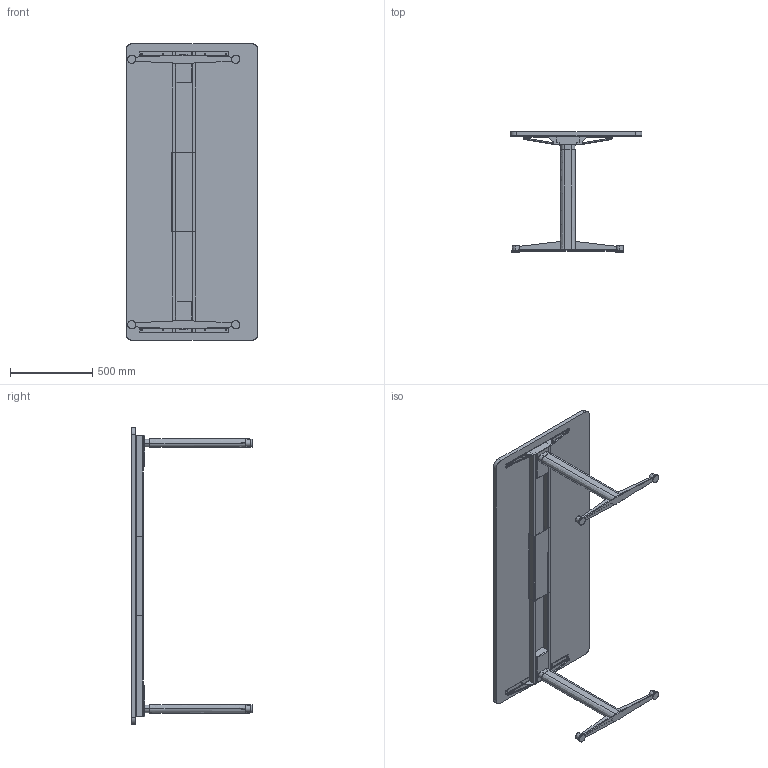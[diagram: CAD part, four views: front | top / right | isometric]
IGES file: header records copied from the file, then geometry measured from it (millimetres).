
Start section: SolidWorks IGES file using analytic representation for surfaces
Global section: file name: C:\Users\simone.cerana\OneDrive - Gruppo Tecno\Desktop\CHINA\DISEGNI DI SERIE\ASSIEMI LISTINO\AXIS LISTINO\AX1808ST.IGS; native system: SolidWorks 2024; preprocessor: SolidWorks 2024; author: simone.cerana; date: 260508.091539; units: millimetre
Bounding box: 800 x 729.39 x 1800 mm (x, y, z)
Surface area: 4175051.6 mm2 (no closed solid volume)
Topology: 0 solids, 0 shells, 290 faces, 4168 edges, 4164 vertices
Faces by surface type: bspline 162, revolution 128
